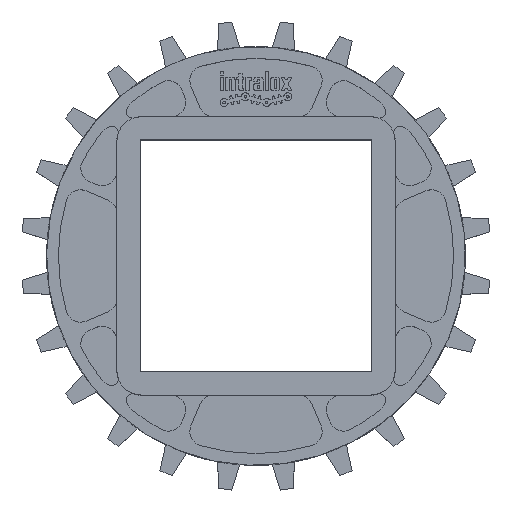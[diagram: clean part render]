
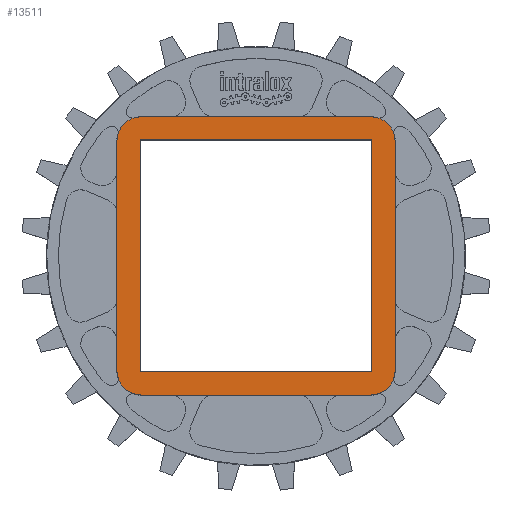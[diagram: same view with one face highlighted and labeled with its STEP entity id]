
A CAD part, top view. The second image highlights one B-rep face of the part: STEP entity #13511.
In plain terms, the highlighted planar face has unit normal (0, 0, 1).
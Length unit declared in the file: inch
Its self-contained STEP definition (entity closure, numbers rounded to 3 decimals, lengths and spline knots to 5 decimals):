
#3702=DIRECTION('',(-1.,0.,0.));
#3703=VECTOR('',#3702,2.335);
#3704=CARTESIAN_POINT('',(1.1675,-1.4175,0.49));
#3705=LINE('',#3704,#3703);
#3706=CARTESIAN_POINT('',(-1.1675,-1.1675,0.49));
#3707=DIRECTION('',(0.,0.,1.));
#3708=DIRECTION('',(-1.,0.,0.));
#3709=AXIS2_PLACEMENT_3D('',#3706,#3707,#3708);
#3711=DIRECTION('',(0.,1.,0.));
#3712=VECTOR('',#3711,2.335);
#3713=CARTESIAN_POINT('',(-1.4175,-1.1675,0.49));
#3714=LINE('',#3713,#3712);
#3715=CARTESIAN_POINT('',(-1.1675,1.1675,0.49));
#3716=DIRECTION('',(0.,0.,1.));
#3717=DIRECTION('',(0.,1.,0.));
#3718=AXIS2_PLACEMENT_3D('',#3715,#3716,#3717);
#3720=DIRECTION('',(1.,0.,0.));
#3721=VECTOR('',#3720,2.335);
#3722=CARTESIAN_POINT('',(-1.1675,1.4175,0.49));
#3723=LINE('',#3722,#3721);
#3724=CARTESIAN_POINT('',(1.1675,1.1675,0.49));
#3725=DIRECTION('',(0.,0.,1.));
#3726=DIRECTION('',(1.,0.,0.));
#3727=AXIS2_PLACEMENT_3D('',#3724,#3725,#3726);
#3729=DIRECTION('',(0.,-1.,0.));
#3730=VECTOR('',#3729,2.335);
#3731=CARTESIAN_POINT('',(1.4175,1.1675,0.49));
#3732=LINE('',#3731,#3730);
#3733=CARTESIAN_POINT('',(1.1675,-1.1675,0.49));
#3734=DIRECTION('',(0.,0.,1.));
#3735=DIRECTION('',(0.,-1.,0.));
#3736=AXIS2_PLACEMENT_3D('',#3733,#3734,#3735);
#3738=DIRECTION('',(1.,0.,0.));
#3739=VECTOR('',#3738,2.362);
#3740=CARTESIAN_POINT('',(-1.181,-1.181,0.49));
#3741=LINE('',#3740,#3739);
#3742=DIRECTION('',(0.,1.,0.));
#3743=VECTOR('',#3742,2.362);
#3744=CARTESIAN_POINT('',(1.181,-1.181,0.49));
#3745=LINE('',#3744,#3743);
#3746=DIRECTION('',(-1.,0.,0.));
#3747=VECTOR('',#3746,2.362);
#3748=CARTESIAN_POINT('',(1.181,1.181,0.49));
#3749=LINE('',#3748,#3747);
#3750=DIRECTION('',(0.,-1.,0.));
#3751=VECTOR('',#3750,2.362);
#3752=CARTESIAN_POINT('',(-1.181,1.181,0.49));
#3753=LINE('',#3752,#3751);
#8013=CARTESIAN_POINT('',(-1.181,-1.181,0.49));
#8014=CARTESIAN_POINT('',(1.181,-1.181,0.49));
#8015=VERTEX_POINT('',#8013);
#8016=VERTEX_POINT('',#8014);
#8017=CARTESIAN_POINT('',(1.181,1.181,0.49));
#8018=VERTEX_POINT('',#8017);
#8019=CARTESIAN_POINT('',(-1.181,1.181,0.49));
#8020=VERTEX_POINT('',#8019);
#8914=CARTESIAN_POINT('',(-1.1675,1.4175,0.49));
#8915=CARTESIAN_POINT('',(1.1675,1.4175,0.49));
#8916=VERTEX_POINT('',#8914);
#8917=VERTEX_POINT('',#8915);
#8920=CARTESIAN_POINT('',(1.4175,1.1675,0.49));
#8921=CARTESIAN_POINT('',(1.4175,-1.1675,0.49));
#8922=VERTEX_POINT('',#8920);
#8923=VERTEX_POINT('',#8921);
#8926=CARTESIAN_POINT('',(1.1675,-1.4175,0.49));
#8927=CARTESIAN_POINT('',(-1.1675,-1.4175,0.49));
#8928=VERTEX_POINT('',#8926);
#8929=VERTEX_POINT('',#8927);
#8930=CARTESIAN_POINT('',(-1.4175,-1.1675,0.49));
#8931=CARTESIAN_POINT('',(-1.4175,1.1675,0.49));
#8932=VERTEX_POINT('',#8930);
#8933=VERTEX_POINT('',#8931);
#13486=CARTESIAN_POINT('',(0.,0.,0.49));
#13487=DIRECTION('',(0.,0.,-1.));
#13488=DIRECTION('',(-1.,0.,0.));
#13489=AXIS2_PLACEMENT_3D('',#13486,#13487,#13488);
#13490=PLANE('',#13489);
#13491=ORIENTED_EDGE('',*,*,#12007,.T.);
#13492=ORIENTED_EDGE('',*,*,#12291,.F.);
#13493=ORIENTED_EDGE('',*,*,#12503,.T.);
#13494=ORIENTED_EDGE('',*,*,#12727,.F.);
#13495=ORIENTED_EDGE('',*,*,#13360,.T.);
#13496=ORIENTED_EDGE('',*,*,#11414,.F.);
#13497=ORIENTED_EDGE('',*,*,#11635,.T.);
#13498=ORIENTED_EDGE('',*,*,#11859,.F.);
#13499=EDGE_LOOP('',(#13491,#13492,#13493,#13494,#13495,#13496,#13497,#13498));
#13500=FACE_OUTER_BOUND('',#13499,.F.);
#13502=ORIENTED_EDGE('',*,*,#13501,.T.);
#13504=ORIENTED_EDGE('',*,*,#13503,.T.);
#13506=ORIENTED_EDGE('',*,*,#13505,.T.);
#13508=ORIENTED_EDGE('',*,*,#13507,.T.);
#13509=EDGE_LOOP('',(#13502,#13504,#13506,#13508));
#13510=FACE_BOUND('',#13509,.F.);
#13511=ADVANCED_FACE('',(#13500,#13510),#13490,.F.);
#3710=CIRCLE('',#3709,0.25);
#3719=CIRCLE('',#3718,0.25);
#3728=CIRCLE('',#3727,0.25);
#3737=CIRCLE('',#3736,0.25);
#11414=EDGE_CURVE('',#8922,#8917,#3728,.T.);
#11635=EDGE_CURVE('',#8922,#8923,#3732,.T.);
#11859=EDGE_CURVE('',#8928,#8923,#3737,.T.);
#12007=EDGE_CURVE('',#8928,#8929,#3705,.T.);
#12291=EDGE_CURVE('',#8932,#8929,#3710,.T.);
#12503=EDGE_CURVE('',#8932,#8933,#3714,.T.);
#12727=EDGE_CURVE('',#8916,#8933,#3719,.T.);
#13360=EDGE_CURVE('',#8916,#8917,#3723,.T.);
#13501=EDGE_CURVE('',#8015,#8016,#3741,.T.);
#13503=EDGE_CURVE('',#8016,#8018,#3745,.T.);
#13505=EDGE_CURVE('',#8018,#8020,#3749,.T.);
#13507=EDGE_CURVE('',#8020,#8015,#3753,.T.);
